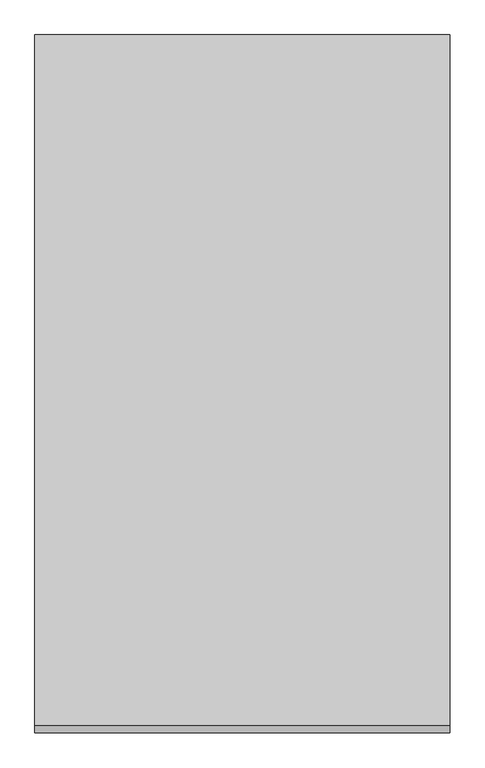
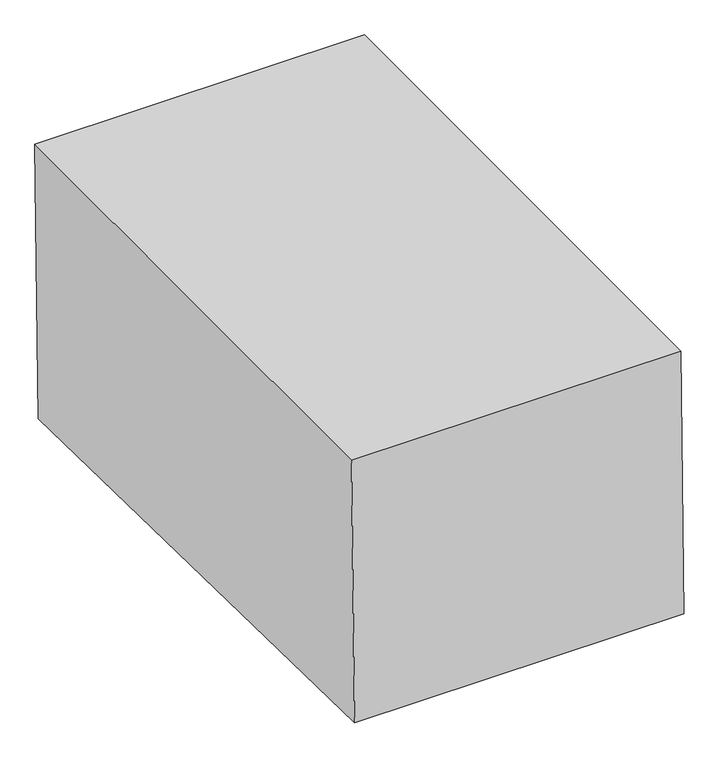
"""IFC4 building model written with IfcOpenShell, lengths in millimetres: proxy geometry, Excavation FamilySP : Excavation FamilySP."""

from ifc_helpers import new_model, si_unit, frame, origin, place, context, project, spatial, polyline, outline, extrude, source, transform, mapped, element, save


def generic_models_fc119a4f(model_context):
    return source(origin(), model_context, "Body", "SweptSolid", [
        extrude(outline(polyline([(51.7913715, 2650.7337579), (0.0, 0.0), (-5070.2341201, 99.0647885), (-5020.6913813, 2634.7112926), (51.7913715, 2650.7337579)])), frame((-1524.0, 0.0, 0.0), z_axis=(1.0, 0.0, 0.0), x_axis=(0.0, 1.0, 0.0)), (0.0, 0.0, 1.0), 3048.0),
    ])


if __name__ == "__main__":
    model = new_model("IFC4")
    model_context = context("Model", 3, world=origin())
    ifc_project = project(units=[si_unit("LENGTHUNIT", "METRE", prefix="MILLI")], contexts=[model_context])
    site = spatial("IfcSite", under=ifc_project)
    building = spatial("IfcBuilding", under=site)
    placement = place(None, origin())
    generic_models_shape = generic_models_fc119a4f(model_context)
    element("IfcBuildingElementProxy", 1, Name="Excavation FamilySP : Excavation FamilySP", ObjectType="Excavation FamilySP : Excavation FamilySP", at=placement, inside=building, context=model_context, shape_type="MappedRepresentation", body=[
        mapped(generic_models_shape, transform((0.0, 0.0, 0.0), x_axis=(1.0, 0.0, 0.0), y_axis=(0.0, 1.0, 0.0), z_axis=(0.0, 0.0, 1.0))),
    ])
    save(model, "model.ifc")
